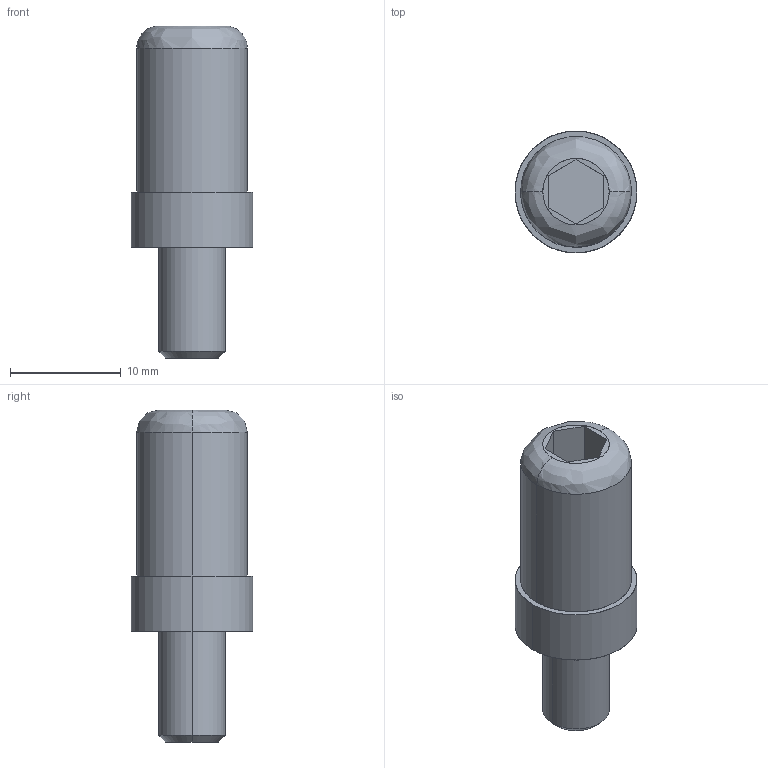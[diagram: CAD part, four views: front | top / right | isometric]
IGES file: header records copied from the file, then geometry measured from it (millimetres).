
Global section: file name: E:\UnigraphicsGraphicData\MISUMI_PRESS-PARTS\IGES\3d_sga11-20_00785_r00.igs; native system: NX V5.0; preprocessor: UGS NX IGES V5.0; author: MISUMI; date: 20110105.162529; units: millimetre
Bounding box: 11 x 11 x 30 mm (x, y, z)
Surface area: 1056.5 mm2 (no closed solid volume)
Topology: 0 solids, 0 shells, 21 faces, 124 edges, 124 vertices
Faces by surface type: bspline 21
